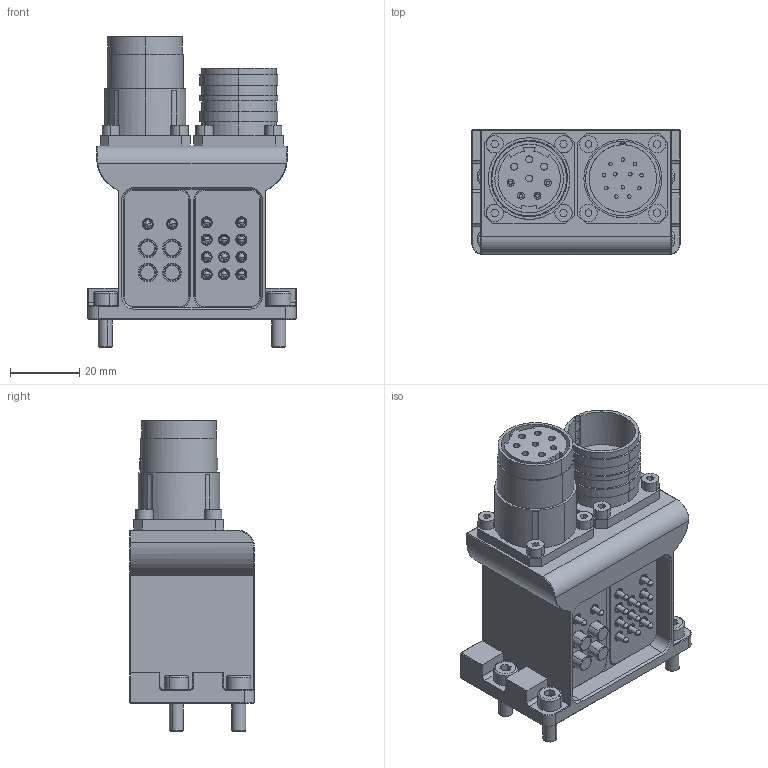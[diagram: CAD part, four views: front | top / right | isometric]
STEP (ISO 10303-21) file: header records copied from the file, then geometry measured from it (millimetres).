
FILE_DESCRIPTION (( 'STEP AP203' ), '1' );
FILE_NAME ('ﾋﾅｷﾗﾜｳﾉﾄ｣ｿ飄.STEP', '2025-02-20T00:46:23', ( 'Windows ﾓﾃｻｧ' ), ( 'Organization' ), 'SwSTEP 2.0', 'SolidWorks 2018', '' );
FILE_SCHEMA (( 'CONFIG_CONTROL_DESIGN' ));
Length unit declared in the file: millimetre
Products named in the file (1): 侜督軞傖耀輸G
Bounding box: 60 x 36 x 89.5 mm (x, y, z)
Volume: 97054.8 mm3; surface area: 24113.1 mm2
Topology: 1 solids, 1 shells, 816 faces, 1908 edges, 1201 vertices
Faces by surface type: plane 348, cylinder 304, cone 120, sphere 26, torus 16, bspline 2
Entity records: 24203 total; most frequent: CARTESIAN_POINT 5556, DIRECTION 3994, ORIENTED_EDGE 3688, EDGE_CURVE 1844, AXIS2_PLACEMENT_3D 1527, VERTEX_POINT 1175, EDGE_LOOP 961, LINE 940
